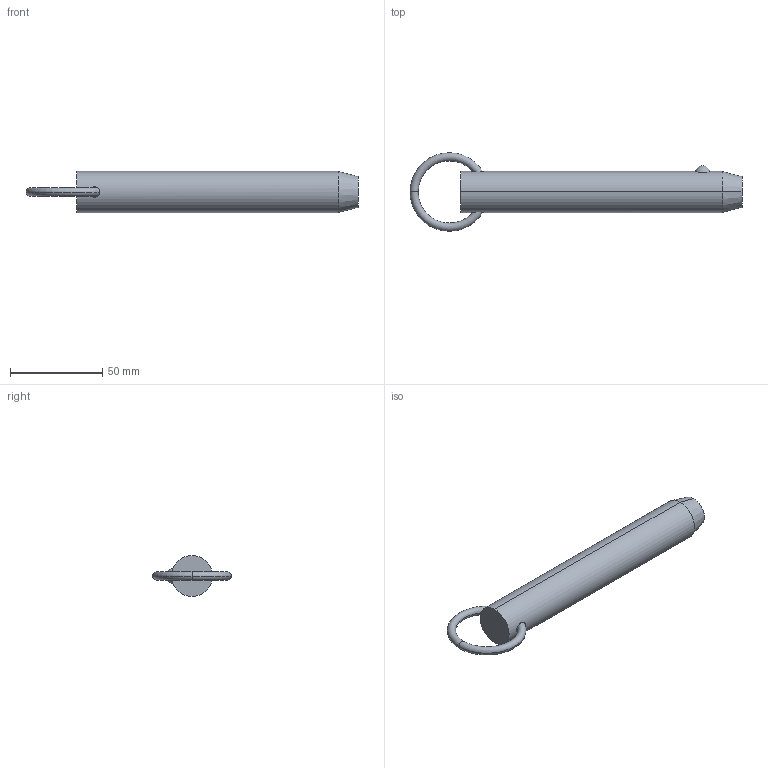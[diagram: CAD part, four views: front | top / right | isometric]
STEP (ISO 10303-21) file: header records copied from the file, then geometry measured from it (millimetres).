
FILE_DESCRIPTION (( 'STEP AP203' ), '1' );
FILE_NAME ('33010.W8845.step', '2024-11-01T10:46:11', ( '' ), ( '' ), 'SwSTEP 2.0', 'SolidWorks 2019', '' );
FILE_SCHEMA (( 'CONFIG_CONTROL_DESIGN' ));
Length unit declared in the file: millimetre
Products named in the file (3): Part2_33010.W8845; Part1_33010.W8845; 33010.W8845
Assembly tree (2 placements, depth 2):
  33010.W8845
    Part1_33010.W8845
    Part2_33010.W8845
Bounding box: 179.76 x 42.55 x 22.23 mm (x, y, z)
Volume: 59617.9 mm3; surface area: 13238.3 mm2
Topology: 2 solids, 2 shells, 16 faces, 31 edges, 18 vertices
Faces by surface type: torus 8, sphere 2, cone 2, cylinder 2, plane 2
Entity records: 903 total; most frequent: CARTESIAN_POINT 260, DIRECTION 88, ORIENTED_EDGE 62, AXIS2_PLACEMENT_3D 42, EDGE_CURVE 31, PERSON_AND_ORGANIZATION 26, CIRCLE 21, LOCAL_TIME 19
